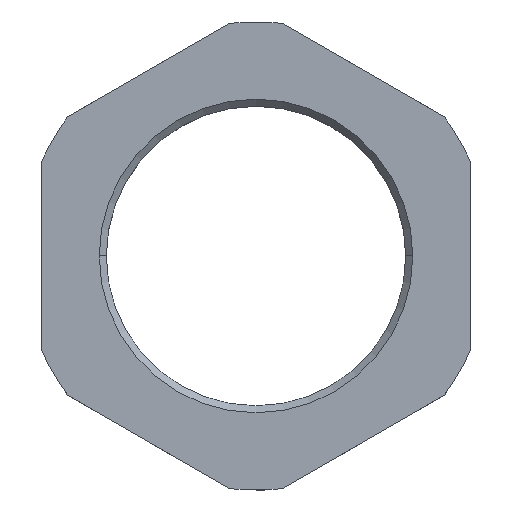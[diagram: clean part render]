
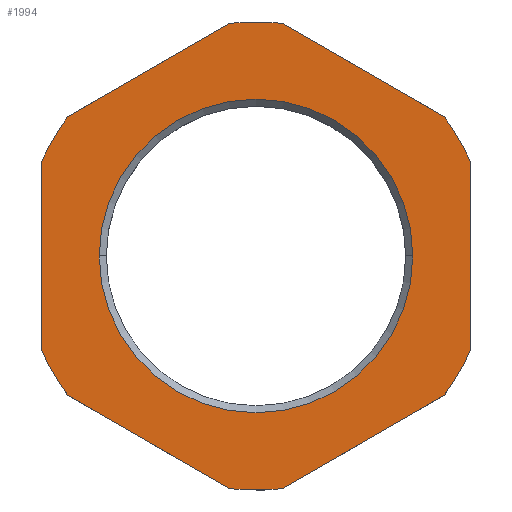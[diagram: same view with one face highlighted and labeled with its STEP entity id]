
A CAD part, top view. The second image highlights one B-rep face of the part: STEP entity #1994.
In plain terms, the highlighted planar face has unit normal (0, 0, 1).
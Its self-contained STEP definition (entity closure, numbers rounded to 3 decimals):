
#837 = DIRECTION ( 'NONE',  ( -1., 0., 0. ) ) ;
#1196 = DIRECTION ( 'NONE',  ( -0.866, -0.5, 0. ) ) ;
#1197 = VECTOR ( 'NONE', #1196, 1000. ) ;
#1198 = CARTESIAN_POINT ( 'NONE',  ( 0., 31.754, 0. ) ) ;
#1225 = LINE ( 'NONE', #1198, #1197 ) ;
#1233 = DIRECTION ( 'NONE',  ( 1., 0., 0. ) ) ;
#1234 = DIRECTION ( 'NONE',  ( 0., 0., 1. ) ) ;
#1239 = CARTESIAN_POINT ( 'NONE',  ( 0., 0., 0. ) ) ;
#1240 = AXIS2_PLACEMENT_3D ( 'NONE', #1239, #1234, #1233 ) ;
#1241 = DIRECTION ( 'NONE',  ( 1., 0., 0. ) ) ;
#1242 = DIRECTION ( 'NONE',  ( 0., 0., 1. ) ) ;
#1243 = CIRCLE ( 'NONE', #1261, 30. ) ;
#1245 = CIRCLE ( 'NONE', #1248, 30. ) ;
#1246 = CIRCLE ( 'NONE', #1240, 30. ) ;
#1247 = CARTESIAN_POINT ( 'NONE',  ( 0., 0., 0. ) ) ;
#1248 = AXIS2_PLACEMENT_3D ( 'NONE', #1247, #1242, #1241 ) ;
#1251 = CARTESIAN_POINT ( 'NONE',  ( -3.367, -29.81, 0. ) ) ;
#1252 = DIRECTION ( 'NONE',  ( 0.866, -0.5, 0. ) ) ;
#1253 = VECTOR ( 'NONE', #1252, 1000. ) ;
#1254 = CARTESIAN_POINT ( 'NONE',  ( -27.5, -15.877, 0. ) ) ;
#1255 = DIRECTION ( 'NONE',  ( 1., 0., 0. ) ) ;
#1256 = DIRECTION ( 'NONE',  ( 0., 0., 1. ) ) ;
#1260 = CARTESIAN_POINT ( 'NONE',  ( 0., 0., 0. ) ) ;
#1261 = AXIS2_PLACEMENT_3D ( 'NONE', #1260, #1256, #1255 ) ;
#1262 = CARTESIAN_POINT ( 'NONE',  ( 3.367, -29.81, 0. ) ) ;
#1263 = CARTESIAN_POINT ( 'NONE',  ( -3.367, 29.81, 0. ) ) ;
#1264 = LINE ( 'NONE', #1254, #1253 ) ;
#1269 = AXIS2_PLACEMENT_3D ( 'NONE', #1285, #1284, #1283 ) ;
#1270 = CIRCLE ( 'NONE', #1269, 30. ) ;
#1283 = DIRECTION ( 'NONE',  ( 1., 0., 0. ) ) ;
#1284 = DIRECTION ( 'NONE',  ( 0., 0., 1. ) ) ;
#1285 = CARTESIAN_POINT ( 'NONE',  ( 0., 0., 0. ) ) ;
#1291 = LINE ( 'NONE', #1296, #1295 ) ;
#1294 = DIRECTION ( 'NONE',  ( -0.866, 0.5, 0. ) ) ;
#1295 = VECTOR ( 'NONE', #1294, 1000. ) ;
#1296 = CARTESIAN_POINT ( 'NONE',  ( 27.5, 15.877, 0. ) ) ;
#1332 = CARTESIAN_POINT ( 'NONE',  ( 3.367, 29.81, 0. ) ) ;
#1341 = DIRECTION ( 'NONE',  ( 1., 0., 0. ) ) ;
#1342 = DIRECTION ( 'NONE',  ( 0., 0., 1. ) ) ;
#1343 = CARTESIAN_POINT ( 'NONE',  ( 0., 0., 0. ) ) ;
#1344 = AXIS2_PLACEMENT_3D ( 'NONE', #1343, #1342, #1341 ) ;
#1345 = CIRCLE ( 'NONE', #1344, 30. ) ;
#1386 = CARTESIAN_POINT ( 'NONE',  ( 24.133, 17.821, 0. ) ) ;
#1428 = DIRECTION ( 'NONE',  ( -1., 0., 0. ) ) ;
#1429 = DIRECTION ( 'NONE',  ( 0., 0., -1. ) ) ;
#1430 = CARTESIAN_POINT ( 'NONE',  ( 0., 0., 0. ) ) ;
#1431 = AXIS2_PLACEMENT_3D ( 'NONE', #1430, #1429, #1428 ) ;
#1432 = CIRCLE ( 'NONE', #1431, 20.088 ) ;
#1442 = CARTESIAN_POINT ( 'NONE',  ( -20.088, 0., 0. ) ) ;
#1446 = DIRECTION ( 'NONE',  ( 0., 1., 0. ) ) ;
#1447 = VECTOR ( 'NONE', #1446, 1000. ) ;
#1448 = CARTESIAN_POINT ( 'NONE',  ( 27.5, -15.877, 0. ) ) ;
#1449 = DIRECTION ( 'NONE',  ( 0.866, 0.5, 0. ) ) ;
#1450 = CARTESIAN_POINT ( 'NONE',  ( 0., -31.754, 0. ) ) ;
#1451 = LINE ( 'NONE', #1450, #1453 ) ;
#1452 = CARTESIAN_POINT ( 'NONE',  ( 27.5, 11.99, 0. ) ) ;
#1453 = VECTOR ( 'NONE', #1449, 1000. ) ;
#1458 = LINE ( 'NONE', #1448, #1447 ) ;
#1459 = CARTESIAN_POINT ( 'NONE',  ( 27.5, -11.99, 0. ) ) ;
#1461 = CARTESIAN_POINT ( 'NONE',  ( 20.088, 0., 0. ) ) ;
#1473 = CARTESIAN_POINT ( 'NONE',  ( 24.133, -17.821, 0. ) ) ;
#1474 = CIRCLE ( 'NONE', #1478, 20.088 ) ;
#1475 = DIRECTION ( 'NONE',  ( -1., 0., 0. ) ) ;
#1476 = DIRECTION ( 'NONE',  ( 0., 0., -1. ) ) ;
#1477 = CARTESIAN_POINT ( 'NONE',  ( 0., 0., 0. ) ) ;
#1478 = AXIS2_PLACEMENT_3D ( 'NONE', #1477, #1476, #1475 ) ;
#1480 = DIRECTION ( 'NONE',  ( 0., 0., -1. ) ) ;
#1481 = CARTESIAN_POINT ( 'NONE',  ( 0., 0., 0. ) ) ;
#1482 = AXIS2_PLACEMENT_3D ( 'NONE', #1481, #1480, #837 ) ;
#1483 = PLANE ( 'NONE',  #1482 ) ;
#1484 = FACE_OUTER_BOUND ( 'NONE', #1790, .T. ) ;
#1485 = FACE_BOUND ( 'NONE', #1864, .T. ) ;
#1492 = CARTESIAN_POINT ( 'NONE',  ( -27.5, -11.99, 0. ) ) ;
#1494 = AXIS2_PLACEMENT_3D ( 'NONE', #1500, #1499, #1498 ) ;
#1495 = CIRCLE ( 'NONE', #1494, 30. ) ;
#1498 = DIRECTION ( 'NONE',  ( 1., 0., 0. ) ) ;
#1499 = DIRECTION ( 'NONE',  ( 0., 0., 1. ) ) ;
#1500 = CARTESIAN_POINT ( 'NONE',  ( 0., 0., 0. ) ) ;
#1502 = CARTESIAN_POINT ( 'NONE',  ( -24.133, -17.821, 0. ) ) ;
#1657 = DIRECTION ( 'NONE',  ( 0., -1., 0. ) ) ;
#1658 = VECTOR ( 'NONE', #1657, 1000. ) ;
#1659 = CARTESIAN_POINT ( 'NONE',  ( -27.5, 15.877, 0. ) ) ;
#1660 = LINE ( 'NONE', #1659, #1658 ) ;
#1664 = CARTESIAN_POINT ( 'NONE',  ( -24.133, 17.821, 0. ) ) ;
#1670 = CARTESIAN_POINT ( 'NONE',  ( -27.5, 11.99, 0. ) ) ;
#1703 = EDGE_CURVE ( 'NONE', #1704, #1995, #1225, .T. ) ;
#1704 = VERTEX_POINT ( 'NONE', #1263 ) ;
#1705 = ORIENTED_EDGE ( 'NONE', *, *, #2016, .T. ) ;
#1788 = ORIENTED_EDGE ( 'NONE', *, *, #1789, .T. ) ;
#1789 = EDGE_CURVE ( 'NONE', #1995, #1996, #1243, .T. ) ;
#1790 = EDGE_LOOP ( 'NONE', ( #1993, #1788, #1705, #2018, #1865, #1875, #1863, #1873, #1950, #1936, #1905, #1902 ) ) ;
#1862 = EDGE_CURVE ( 'NONE', #2020, #1866, #1264, .T. ) ;
#1863 = ORIENTED_EDGE ( 'NONE', *, *, #1987, .T. ) ;
#1864 = EDGE_LOOP ( 'NONE', ( #2021, #2015 ) ) ;
#1865 = ORIENTED_EDGE ( 'NONE', *, *, #1862, .T. ) ;
#1866 = VERTEX_POINT ( 'NONE', #1251 ) ;
#1867 = VERTEX_POINT ( 'NONE', #1262 ) ;
#1870 = EDGE_CURVE ( 'NONE', #1991, #1982, #1245, .T. ) ;
#1871 = EDGE_CURVE ( 'NONE', #1866, #1867, #1246, .T. ) ;
#1873 = ORIENTED_EDGE ( 'NONE', *, *, #1870, .T. ) ;
#1875 = ORIENTED_EDGE ( 'NONE', *, *, #1871, .T. ) ;
#1893 = EDGE_CURVE ( 'NONE', #1927, #1704, #1270, .T. ) ;
#1902 = ORIENTED_EDGE ( 'NONE', *, *, #1893, .T. ) ;
#1905 = ORIENTED_EDGE ( 'NONE', *, *, #1912, .T. ) ;
#1912 = EDGE_CURVE ( 'NONE', #1952, #1927, #1291, .T. ) ;
#1927 = VERTEX_POINT ( 'NONE', #1332 ) ;
#1930 = EDGE_CURVE ( 'NONE', #1983, #1952, #1345, .T. ) ;
#1936 = ORIENTED_EDGE ( 'NONE', *, *, #1930, .T. ) ;
#1950 = ORIENTED_EDGE ( 'NONE', *, *, #1981, .T. ) ;
#1952 = VERTEX_POINT ( 'NONE', #1386 ) ;
#1969 = EDGE_CURVE ( 'NONE', #1977, #1980, #1432, .T. ) ;
#1977 = VERTEX_POINT ( 'NONE', #1461 ) ;
#1980 = VERTEX_POINT ( 'NONE', #1442 ) ;
#1981 = EDGE_CURVE ( 'NONE', #1982, #1983, #1458, .T. ) ;
#1982 = VERTEX_POINT ( 'NONE', #1459 ) ;
#1983 = VERTEX_POINT ( 'NONE', #1452 ) ;
#1987 = EDGE_CURVE ( 'NONE', #1867, #1991, #1451, .T. ) ;
#1991 = VERTEX_POINT ( 'NONE', #1473 ) ;
#1992 = EDGE_CURVE ( 'NONE', #1980, #1977, #1474, .T. ) ;
#1993 = ORIENTED_EDGE ( 'NONE', *, *, #1703, .T. ) ;
#1994 = ADVANCED_FACE ( 'NONE', ( #1485, #1484 ), #1483, .F. ) ;
#1995 = VERTEX_POINT ( 'NONE', #1664 ) ;
#1996 = VERTEX_POINT ( 'NONE', #1670 ) ;
#2015 = ORIENTED_EDGE ( 'NONE', *, *, #1992, .T. ) ;
#2016 = EDGE_CURVE ( 'NONE', #1996, #2017, #1660, .T. ) ;
#2017 = VERTEX_POINT ( 'NONE', #1492 ) ;
#2018 = ORIENTED_EDGE ( 'NONE', *, *, #2019, .T. ) ;
#2019 = EDGE_CURVE ( 'NONE', #2017, #2020, #1495, .T. ) ;
#2020 = VERTEX_POINT ( 'NONE', #1502 ) ;
#2021 = ORIENTED_EDGE ( 'NONE', *, *, #1969, .T. ) ;
